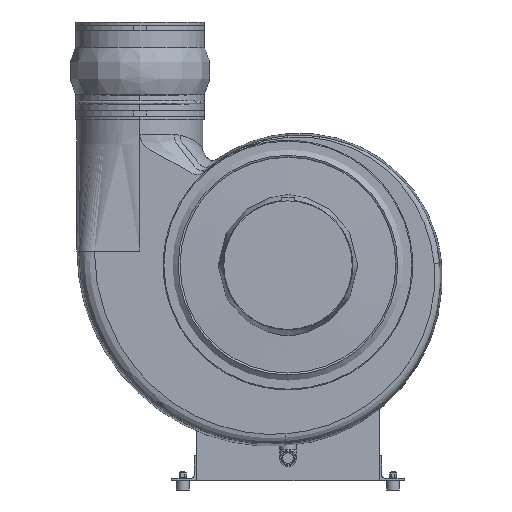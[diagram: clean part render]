
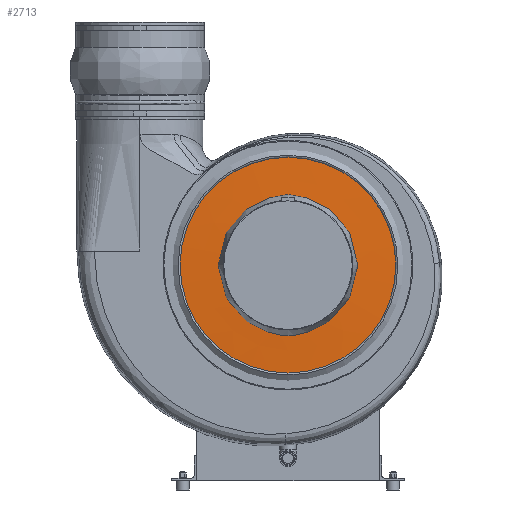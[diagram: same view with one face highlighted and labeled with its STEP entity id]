
A CAD part, front view. The second image highlights one B-rep face of the part: STEP entity #2713.
In plain terms, the highlighted conical face has half-angle 87.858 degrees and reference radius 135.667 mm.
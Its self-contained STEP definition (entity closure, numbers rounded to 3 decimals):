
#2713 = ADVANCED_FACE( '', ( #6244, #6245 ), #6246, .T. );
#6244 = FACE_BOUND( '', #21369, .T. );
#6245 = FACE_OUTER_BOUND( '', #21370, .T. );
#6246 = CONICAL_SURFACE( '', #21371, 135.667, 1.533 );
#21369 = EDGE_LOOP( '', ( #40463 ) );
#21370 = EDGE_LOOP( '', ( #40464 ) );
#21371 = AXIS2_PLACEMENT_3D( '', #40465, #40466, #40467 );
#40463 = ORIENTED_EDGE( '', *, *, #48202, .F. );
#40464 = ORIENTED_EDGE( '', *, *, #49516, .T. );
#40465 = CARTESIAN_POINT( '', ( 41.334, 0., 0. ) );
#40466 = DIRECTION( '', ( 1., 0., 0. ) );
#40467 = DIRECTION( '', ( 0., 0., -1. ) );
#48202 = EDGE_CURVE( '', #52380, #52380, #52381, .T. );
#49516 = EDGE_CURVE( '', #54554, #54554, #54555, .T. );
#52380 = VERTEX_POINT( '', #60596 );
#52381 = CIRCLE( '', #60597, 100. );
#54554 = VERTEX_POINT( '', #65482 );
#54555 = CIRCLE( '', #65483, 171.333 );
#60596 = CARTESIAN_POINT( '', ( 40., 0., 100. ) );
#60597 = AXIS2_PLACEMENT_3D( '', #73492, #73493, #73494 );
#65482 = CARTESIAN_POINT( '', ( 42.669, 0., 171.333 ) );
#65483 = AXIS2_PLACEMENT_3D( '', #74992, #74993, #74994 );
#73492 = CARTESIAN_POINT( '', ( 40., 0., 0. ) );
#73493 = DIRECTION( '', ( -1., 0., 0. ) );
#73494 = DIRECTION( '', ( 0., 0., 1. ) );
#74992 = CARTESIAN_POINT( '', ( 42.669, 0., 0. ) );
#74993 = DIRECTION( '', ( -1., 0., 0. ) );
#74994 = DIRECTION( '', ( 0., 0., 1. ) );
